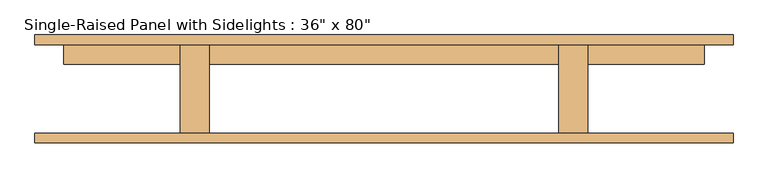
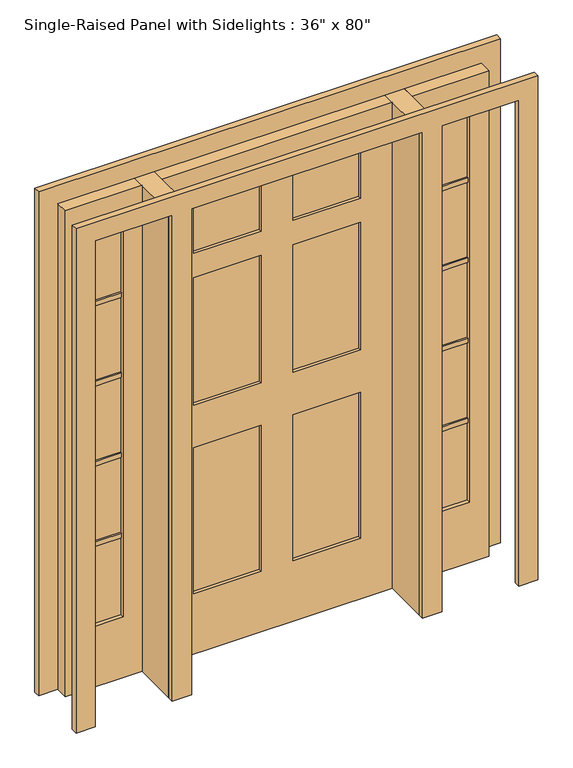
"""IFC4 building model written with IfcOpenShell, lengths in millimetres: door geometry."""

from ifc_helpers import new_model, si_unit, frame, origin, origin_with_axes, place, context, project, spatial, polyline, outline, extrude, source, transform, mapped, element, save


def door_09daaf69(model_context):
    return source(origin(), model_context, "Body", "SweptSolid", [
        extrude(outline(polyline([(762.0, 74.6125), (609.6, 74.6125), (609.6, 106.3625), (762.0, 106.3625), (762.0, 74.6125)])), frame((0.0, 0.0, 579.755), z_axis=(0.0, 0.0, 1.0), x_axis=(1.0, 0.0, 0.0)), (0.0, 0.0, 1.0), 19.05),
        extrude(outline(polyline([(762.0, 74.6125), (609.6, 74.6125), (609.6, 106.3625), (762.0, 106.3625), (762.0, 74.6125)])), frame((0.0, 0.0, 915.035), z_axis=(0.0, 0.0, 1.0), x_axis=(1.0, 0.0, 0.0)), (0.0, 0.0, 1.0), 19.05),
        extrude(outline(polyline([(762.0, 74.6125), (609.6, 74.6125), (609.6, 106.3625), (762.0, 106.3625), (762.0, 74.6125)])), frame((0.0, 0.0, 1250.315), z_axis=(0.0, 0.0, 1.0), x_axis=(1.0, 0.0, 0.0)), (0.0, 0.0, 1.0), 19.05),
        extrude(outline(polyline([(762.0, 74.6125), (609.6, 74.6125), (609.6, 106.3625), (762.0, 106.3625), (762.0, 74.6125)])), frame((0.0, 0.0, 1585.595), z_axis=(0.0, 0.0, 1.0), x_axis=(1.0, 0.0, 0.0)), (0.0, 0.0, 1.0), 19.05),
        extrude(outline(polyline([(-609.6, 74.6125), (-762.0, 74.6125), (-762.0, 106.3625), (-609.6, 106.3625), (-609.6, 74.6125)])), frame((0.0, 0.0, 1585.595), z_axis=(0.0, 0.0, 1.0), x_axis=(1.0, 0.0, 0.0)), (0.0, 0.0, 1.0), 19.05),
        extrude(outline(polyline([(-609.6, 74.6125), (-762.0, 74.6125), (-762.0, 106.3625), (-609.6, 106.3625), (-609.6, 74.6125)])), frame((0.0, 0.0, 1250.315), z_axis=(0.0, 0.0, 1.0), x_axis=(1.0, 0.0, 0.0)), (0.0, 0.0, 1.0), 19.05),
        extrude(outline(polyline([(-609.6, 74.6125), (-762.0, 74.6125), (-762.0, 106.3625), (-609.6, 106.3625), (-609.6, 74.6125)])), frame((0.0, 0.0, 915.035), z_axis=(0.0, 0.0, 1.0), x_axis=(1.0, 0.0, 0.0)), (0.0, 0.0, 1.0), 19.05),
        extrude(outline(polyline([(-609.6, 74.6125), (-762.0, 74.6125), (-762.0, 106.3625), (-609.6, 106.3625), (-609.6, 74.6125)])), frame((0.0, 0.0, 579.755), z_axis=(0.0, 0.0, 1.0), x_axis=(1.0, 0.0, 0.0)), (0.0, 0.0, 1.0), 19.05),
        extrude(outline(polyline([(762.0, 80.9625), (609.6, 80.9625), (609.6, 100.0125), (762.0, 100.0125), (762.0, 80.9625)])), frame((0.0, 0.0, 254.0), z_axis=(0.0, 0.0, 1.0), x_axis=(1.0, 0.0, 0.0)), (0.0, 0.0, 1.0), 1676.4),
        extrude(outline(polyline([(-609.6, 80.9625), (-762.0, 80.9625), (-762.0, 100.0125), (-609.6, 100.0125), (-609.6, 80.9625)])), frame((0.0, 0.0, 254.0), z_axis=(0.0, 0.0, 1.0), x_axis=(1.0, 0.0, 0.0)), (0.0, 0.0, 1.0), 1676.4),
        extrude(outline(polyline([(-457.2, -115.8875), (-533.4, -115.8875), (-533.4, 115.8875), (-457.2, 115.8875), (-457.2, -115.8875)])), origin_with_axes(), (0.0, 0.0, 1.0), 2032.0),
        extrude(outline(polyline([(533.4, -115.8875), (457.2, -115.8875), (457.2, 115.8875), (533.4, 115.8875), (533.4, -115.8875)])), origin_with_axes(), (0.0, 0.0, 1.0), 2032.0),
        extrude(outline(polyline([(2032.0, -533.4), (2032.0, -838.2), (0.0, -838.2), (0.0, -533.4), (2032.0, -533.4)]), holes=[polyline([(1930.4, -609.6), (254.0, -609.6), (254.0, -762.0), (1930.4, -762.0), (1930.4, -609.6)])]), frame((0.0, 65.0875, 0.0), z_axis=(0.0, 1.0, 0.0), x_axis=(0.0, 0.0, 1.0)), (0.0, 0.0, 1.0), 50.8),
        extrude(outline(polyline([(0.0, 533.4), (0.0, 838.2), (2032.0, 838.2), (2032.0, 533.4), (0.0, 533.4)]), holes=[polyline([(1930.4, 762.0), (254.0, 762.0), (254.0, 609.6), (1930.4, 609.6), (1930.4, 762.0)])]), frame((0.0, 65.0875, 0.0), z_axis=(0.0, 1.0, 0.0), x_axis=(0.0, 0.0, 1.0)), (0.0, 0.0, 1.0), 50.8),
        extrude(outline(polyline([(0.0, -914.4), (0.0, -838.2), (2032.0, -838.2), (2032.0, -533.4), (0.0, -533.4), (0.0, -457.2), (2032.0, -457.2), (2032.0, 457.2), (0.0, 457.2), (0.0, 533.4), (2032.0, 533.4), (2032.0, 838.2), (0.0, 838.2), (0.0, 914.4), (2108.2, 914.4), (2108.2, -914.4), (0.0, -914.4)])), frame((0.0, -141.2875, 0.0), z_axis=(0.0, 1.0, 0.0), x_axis=(0.0, 0.0, 1.0)), (0.0, 0.0, 1.0), 25.4),
        extrude(outline(polyline([(0.0, 914.4), (2108.2, 914.4), (2108.2, -914.4), (0.0, -914.4), (0.0, -838.2), (2032.0, -838.2), (2032.0, -533.4), (0.0, -533.4), (0.0, -457.2), (2032.0, -457.2), (2032.0, 457.2), (0.0, 457.2), (0.0, 533.4), (2032.0, 533.4), (2032.0, 838.2), (0.0, 838.2), (0.0, 914.4)])), frame((0.0, 115.8875, 0.0), z_axis=(0.0, 1.0, 0.0), x_axis=(0.0, 0.0, 1.0)), (0.0, 0.0, 1.0), 25.4),
        extrude(outline(polyline([(-63.5, 77.7875), (-330.2, 77.7875), (-330.2, 103.1875), (-63.5, 103.1875), (-63.5, 77.7875)])), frame((0.0, 0.0, 1676.4), z_axis=(0.0, 0.0, 1.0), x_axis=(1.0, 0.0, 0.0)), (0.0, 0.0, 1.0), 254.0),
        extrude(outline(polyline([(330.2, 77.7875), (63.5, 77.7875), (63.5, 103.1875), (330.2, 103.1875), (330.2, 77.7875)])), frame((0.0, 0.0, 1676.4), z_axis=(0.0, 0.0, 1.0), x_axis=(1.0, 0.0, 0.0)), (0.0, 0.0, 1.0), 254.0),
        extrude(outline(polyline([(-63.5, 77.7875), (-330.2, 77.7875), (-330.2, 103.1875), (-63.5, 103.1875), (-63.5, 77.7875)])), frame((0.0, 0.0, 1041.4), z_axis=(0.0, 0.0, 1.0), x_axis=(1.0, 0.0, 0.0)), (0.0, 0.0, 1.0), 533.4),
        extrude(outline(polyline([(330.2, 77.7875), (63.5, 77.7875), (63.5, 103.1875), (330.2, 103.1875), (330.2, 77.7875)])), frame((0.0, 0.0, 1041.4), z_axis=(0.0, 0.0, 1.0), x_axis=(1.0, 0.0, 0.0)), (0.0, 0.0, 1.0), 533.4),
        extrude(outline(polyline([(-63.5, 77.7875), (-330.2, 77.7875), (-330.2, 103.1875), (-63.5, 103.1875), (-63.5, 77.7875)])), frame((0.0, 0.0, 254.0), z_axis=(0.0, 0.0, 1.0), x_axis=(1.0, 0.0, 0.0)), (0.0, 0.0, 1.0), 609.6),
        extrude(outline(polyline([(330.2, 77.7875), (63.5, 77.7875), (63.5, 103.1875), (330.2, 103.1875), (330.2, 77.7875)])), frame((0.0, 0.0, 254.0), z_axis=(0.0, 0.0, 1.0), x_axis=(1.0, 0.0, 0.0)), (0.0, 0.0, 1.0), 609.6),
        extrude(outline(polyline([(2032.0, 457.2), (2032.0, -457.2), (0.0, -457.2), (0.0, 457.2), (2032.0, 457.2)]), holes=[polyline([(1930.4, -63.5), (1676.4, -63.5), (1676.4, -330.2), (1930.4, -330.2), (1930.4, -63.5)]), polyline([(1930.4, 330.2), (1676.4, 330.2), (1676.4, 63.5), (1930.4, 63.5), (1930.4, 330.2)]), polyline([(1574.8, -63.5), (1041.4, -63.5), (1041.4, -330.2), (1574.8, -330.2), (1574.8, -63.5)]), polyline([(1574.8, 330.2), (1041.4, 330.2), (1041.4, 63.5), (1574.8, 63.5), (1574.8, 330.2)]), polyline([(863.6, -63.5), (254.0, -63.5), (254.0, -330.2), (863.6, -330.2), (863.6, -63.5)]), polyline([(863.6, 330.2), (254.0, 330.2), (254.0, 63.5), (863.6, 63.5), (863.6, 330.2)])]), frame((0.0, 65.0875, 0.0), z_axis=(0.0, 1.0, 0.0), x_axis=(0.0, 0.0, 1.0)), (0.0, 0.0, 1.0), 50.8),
    ])


if __name__ == "__main__":
    model = new_model("IFC4")
    model_context = context("Model", 3, world=origin())
    ifc_project = project(units=[si_unit("LENGTHUNIT", "METRE", prefix="MILLI")], contexts=[model_context])
    site = spatial("IfcSite", under=ifc_project)
    building = spatial("IfcBuilding", under=site)
    placement = place(None, origin())
    door_shape = door_09daaf69(model_context)
    element("IfcDoor", 1, ObjectType="Single-Raised Panel with Sidelights : 36\" x 80\"", at=placement, inside=building, context=model_context, shape_type="MappedRepresentation", body=[
        mapped(door_shape, transform((0.0, 0.0, 0.0), x_axis=(1.0, 0.0, 0.0), y_axis=(0.0, 1.0, 0.0), z_axis=(0.0, 0.0, 1.0))),
    ])
    save(model, "model.ifc")
